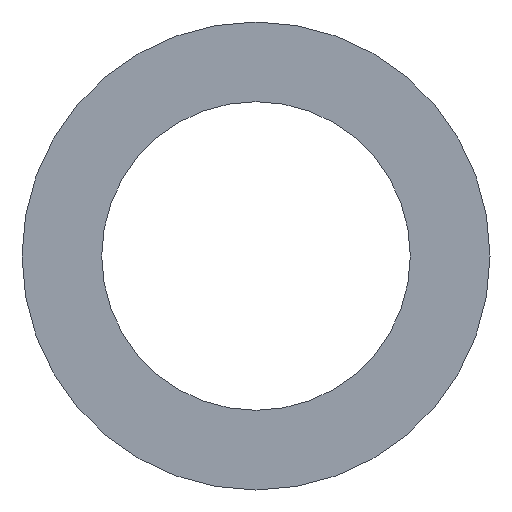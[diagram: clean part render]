
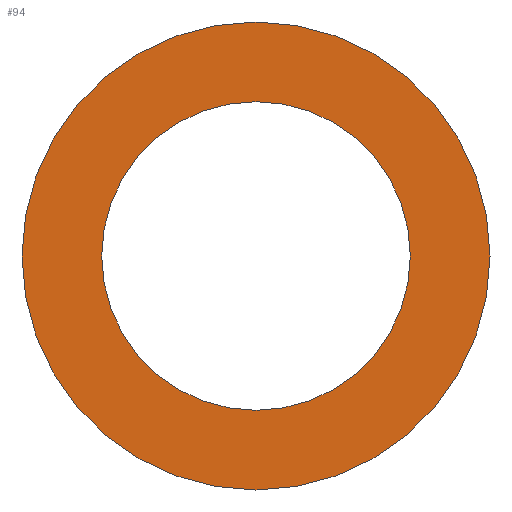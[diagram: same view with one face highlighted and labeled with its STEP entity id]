
A CAD part, left-side view. The second image highlights one B-rep face of the part: STEP entity #94.
In plain terms, the highlighted planar face has unit normal (-1, 0, 0).
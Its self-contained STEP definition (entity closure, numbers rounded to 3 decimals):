
#5 = AXIS2_PLACEMENT_3D ( 'NONE', #14, #49, #139 ) ;
#6 = EDGE_CURVE ( 'NONE', #137, #290, #358, .T. ) ;
#14 = CARTESIAN_POINT ( 'NONE',  ( 0., 0., 0. ) ) ;
#35 = PLANE ( 'NONE',  #211 ) ;
#45 = DIRECTION ( 'NONE',  ( -1., 0., 0. ) ) ;
#49 = DIRECTION ( 'NONE',  ( 1., 0., 0. ) ) ;
#50 = CARTESIAN_POINT ( 'NONE',  ( 0., 0., 41.55 ) ) ;
#87 = VERTEX_POINT ( 'NONE', #130 ) ;
#92 = DIRECTION ( 'NONE',  ( 1., 0., 0. ) ) ;
#94 = ADVANCED_FACE ( 'NONE', ( #268, #126 ), #35, .F. ) ;
#99 = DIRECTION ( 'NONE',  ( 1., 0., 0. ) ) ;
#100 = CARTESIAN_POINT ( 'NONE',  ( 0., 0., -41.55 ) ) ;
#121 = VERTEX_POINT ( 'NONE', #335 ) ;
#126 = FACE_OUTER_BOUND ( 'NONE', #173, .T. ) ;
#130 = CARTESIAN_POINT ( 'NONE',  ( 0., 0., 63. ) ) ;
#137 = VERTEX_POINT ( 'NONE', #100 ) ;
#138 = AXIS2_PLACEMENT_3D ( 'NONE', #275, #45, #256 ) ;
#139 = DIRECTION ( 'NONE',  ( 0., 0., -1. ) ) ;
#158 = CARTESIAN_POINT ( 'NONE',  ( 0., 0., 0. ) ) ;
#173 = EDGE_LOOP ( 'NONE', ( #255, #286 ) ) ;
#204 = DIRECTION ( 'NONE',  ( 0., 0., -1. ) ) ;
#211 = AXIS2_PLACEMENT_3D ( 'NONE', #362, #99, #237 ) ;
#223 = AXIS2_PLACEMENT_3D ( 'NONE', #355, #92, #204 ) ;
#229 = EDGE_LOOP ( 'NONE', ( #230, #289 ) ) ;
#230 = ORIENTED_EDGE ( 'NONE', *, *, #302, .T. ) ;
#237 = DIRECTION ( 'NONE',  ( 0., 0., -1. ) ) ;
#243 = CIRCLE ( 'NONE', #138, 63. ) ;
#255 = ORIENTED_EDGE ( 'NONE', *, *, #272, .T. ) ;
#256 = DIRECTION ( 'NONE',  ( 0., 0., 1. ) ) ;
#264 = CIRCLE ( 'NONE', #5, 41.55 ) ;
#268 = FACE_BOUND ( 'NONE', #229, .T. ) ;
#272 = EDGE_CURVE ( 'NONE', #87, #121, #299, .T. ) ;
#275 = CARTESIAN_POINT ( 'NONE',  ( 0., 0., 0. ) ) ;
#283 = DIRECTION ( 'NONE',  ( 0., 0., 1. ) ) ;
#286 = ORIENTED_EDGE ( 'NONE', *, *, #296, .T. ) ;
#289 = ORIENTED_EDGE ( 'NONE', *, *, #6, .T. ) ;
#290 = VERTEX_POINT ( 'NONE', #50 ) ;
#293 = AXIS2_PLACEMENT_3D ( 'NONE', #158, #379, #283 ) ;
#296 = EDGE_CURVE ( 'NONE', #121, #87, #243, .T. ) ;
#299 = CIRCLE ( 'NONE', #293, 63. ) ;
#302 = EDGE_CURVE ( 'NONE', #290, #137, #264, .T. ) ;
#335 = CARTESIAN_POINT ( 'NONE',  ( 0., 0., -63. ) ) ;
#355 = CARTESIAN_POINT ( 'NONE',  ( 0., 0., 0. ) ) ;
#358 = CIRCLE ( 'NONE', #223, 41.55 ) ;
#362 = CARTESIAN_POINT ( 'NONE',  ( 0., 0., 0. ) ) ;
#379 = DIRECTION ( 'NONE',  ( -1., 0., 0. ) ) ;
